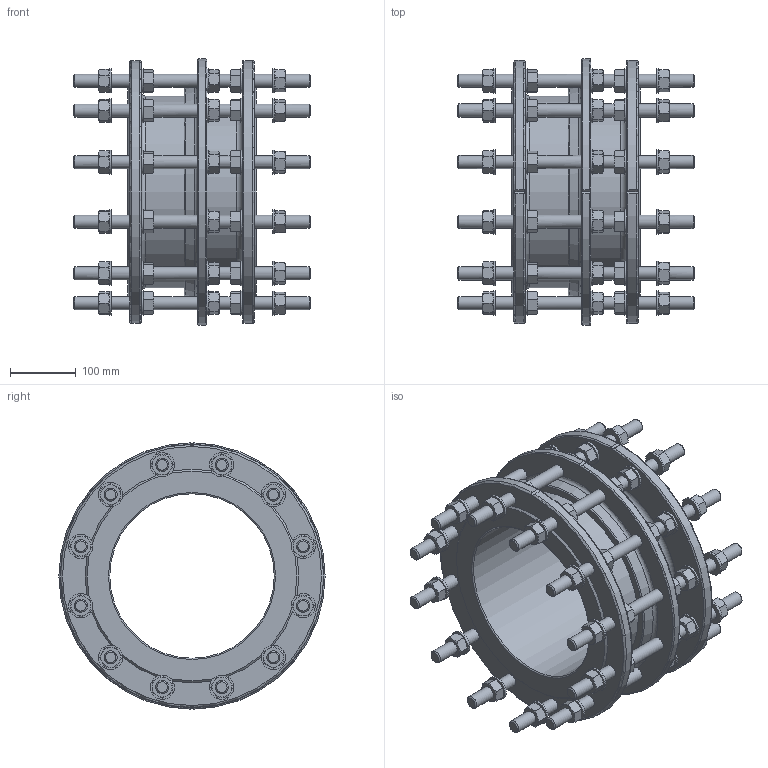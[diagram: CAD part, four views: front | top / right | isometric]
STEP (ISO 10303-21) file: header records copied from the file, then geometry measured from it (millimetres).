
FILE_DESCRIPTION (( 'STEP AP203' ), '1' );
FILE_NAME ('O_265_911_DN250_0XXXXX01_L=195_REV01.step', '2024-12-12T07:49:45', ( '' ), ( '' ), 'SwSTEP 2.0', 'SolidWorks 2022', '' );
FILE_SCHEMA (( 'CONFIG_CONTROL_DESIGN' ));
Length unit declared in the file: millimetre
Products named in the file (1): O_265_911_DN250_0XXXXX01_L=195_REV01
Bounding box: 360 x 405 x 404.96 mm (x, y, z)
Volume: 7878779 mm3; surface area: 1047451.5 mm2
Topology: 1 solids, 1 shells, 1497 faces, 3320 edges, 1992 vertices
Faces by surface type: cone 748, plane 588, cylinder 144, torus 17
Full cylindrical faces by diameter (mm): 20 x72, 37 x60, 250 x1, 264 x2, 292 x1
Entity records: 45780 total; most frequent: CARTESIAN_POINT 16189, ORIENTED_EDGE 6086, DIRECTION 5629, EDGE_CURVE 3043, AXIS2_PLACEMENT_3D 2564, VERTEX_POINT 1884, EDGE_LOOP 1883, FACE_OUTER_BOUND 1638
